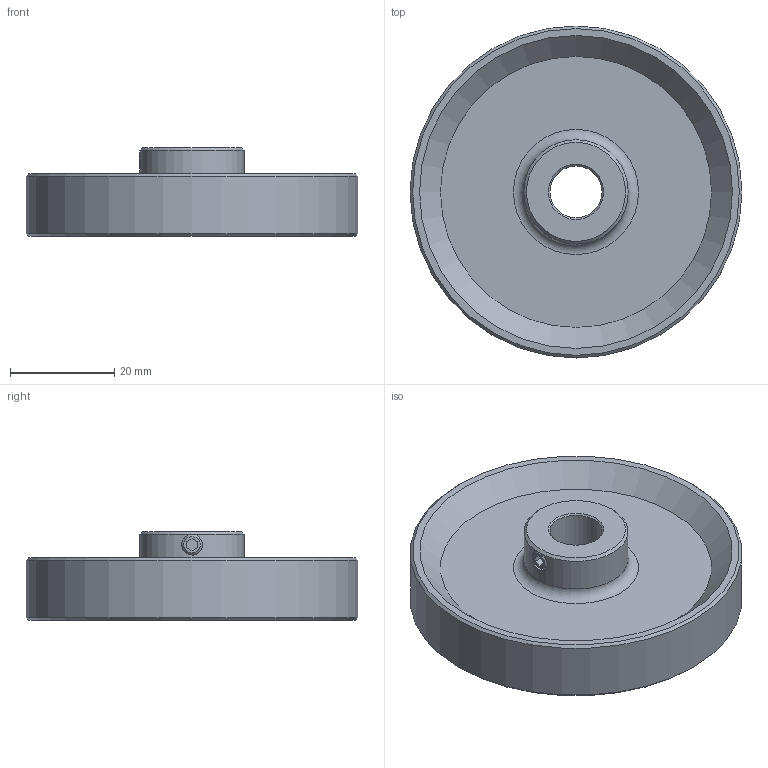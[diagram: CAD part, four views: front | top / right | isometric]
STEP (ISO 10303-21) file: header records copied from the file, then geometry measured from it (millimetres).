
FILE_DESCRIPTION( ( 'STEP AP203' ), '1' );
FILE_NAME( '//expscmdclustefs.cadenas.external/client_exchange/iodir/jobs/output/wkb81191733_no0/STEP/E60095_2_03.stp', ' ', ( ' ' ), ( ' ' ), 'PSStep 15.0.47', 'PARTsolutions', ' ' );
FILE_SCHEMA( ( 'CONFIG_CONTROL_DESIGN' ) );
Length unit declared in the file: millimetre
Products named in the file (1): _E60095
Bounding box: 63.66 x 63.66 x 17 mm (x, y, z)
Volume: 21234.2 mm3; surface area: 10322.6 mm2
Topology: 1 solids, 1 shells, 33 faces, 67 edges, 40 vertices
Faces by surface type: plane 14, cone 11, cylinder 6, torus 2
Full cylindrical faces by diameter (mm): 4 x2, 10 x1, 20 x2, 63.66 x1
Entity records: 884 total; most frequent: CARTESIAN_POINT 226, DIRECTION 134, ORIENTED_EDGE 88, EDGE_LOOP 59, AXIS2_PLACEMENT_3D 58, EDGE_CURVE 44, FACE_OUTER_BOUND 41, VERTEX_POINT 38
